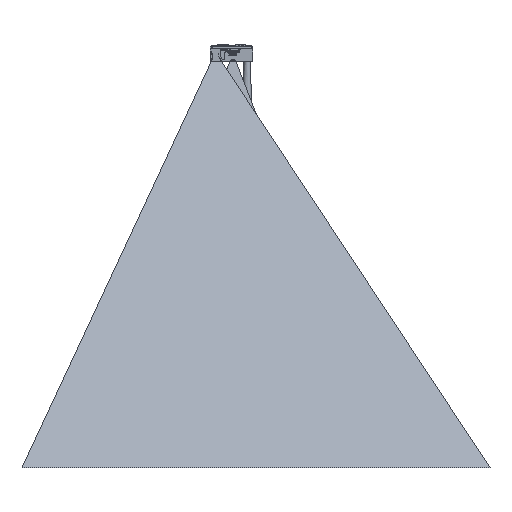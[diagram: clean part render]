
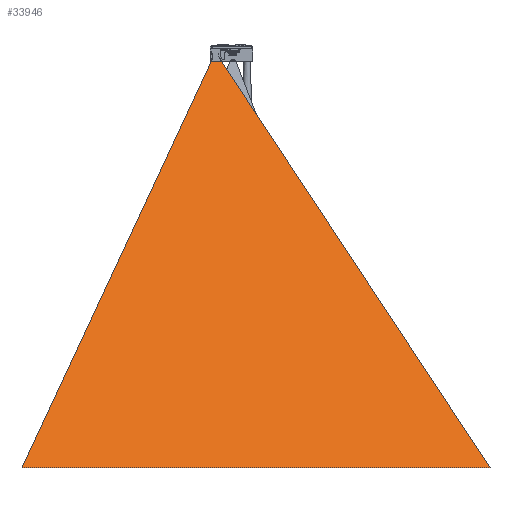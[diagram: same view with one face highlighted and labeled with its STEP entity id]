
A CAD part, front view. The second image highlights one B-rep face of the part: STEP entity #33946.
In plain terms, the highlighted planar face has unit normal (0, -0.828, 0.561).
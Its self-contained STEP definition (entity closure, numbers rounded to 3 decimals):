
#33828=DIRECTION('',(-1.,0.,0.));
#33829=VECTOR('',#33828,5.05);
#33830=CARTESIAN_POINT('',(-5.6,-2.8,0.));
#33831=LINE('',#33830,#33829);
#33852=DIRECTION('',(-1.,0.,0.));
#33853=VECTOR('',#33852,230.474);
#33854=CARTESIAN_POINT('',(126.603,-138.393,-200.));
#33855=LINE('',#33854,#33853);
#33856=DIRECTION('',(0.36,0.524,0.772));
#33857=VECTOR('',#33856,258.989);
#33858=CARTESIAN_POINT('',(-103.87,-138.393,-200.));
#33859=LINE('',#33858,#33857);
#33868=DIRECTION('',(-0.48,0.492,0.726));
#33869=VECTOR('',#33868,275.433);
#33870=CARTESIAN_POINT('',(126.603,-138.393,-200.));
#33871=LINE('',#33870,#33869);
#33876=CARTESIAN_POINT('',(-103.87,-138.393,-200.));
#33877=VERTEX_POINT('',#33876);
#33878=CARTESIAN_POINT('',(126.603,-138.393,-200.));
#33879=VERTEX_POINT('',#33878);
#33884=CARTESIAN_POINT('',(-5.6,-2.8,0.));
#33885=VERTEX_POINT('',#33884);
#33886=CARTESIAN_POINT('',(-10.65,-2.8,0.));
#33887=VERTEX_POINT('',#33886);
#33933=CARTESIAN_POINT('',(-312.2,-2.8,0.));
#33934=DIRECTION('',(0.,-0.828,0.561));
#33935=DIRECTION('',(0.,-0.561,-0.828));
#33936=AXIS2_PLACEMENT_3D('',#33933,#33934,#33935);
#33937=PLANE('',#33936);
#33938=ORIENTED_EDGE('',*,*,#33897,.F.);
#33940=ORIENTED_EDGE('',*,*,#33939,.F.);
#33942=ORIENTED_EDGE('',*,*,#33941,.T.);
#33943=ORIENTED_EDGE('',*,*,#33926,.T.);
#33944=EDGE_LOOP('',(#33938,#33940,#33942,#33943));
#33945=FACE_OUTER_BOUND('',#33944,.F.);
#33897=EDGE_CURVE('',#33885,#33887,#33831,.T.);
#33926=EDGE_CURVE('',#33877,#33887,#33859,.T.);
#33939=EDGE_CURVE('',#33879,#33885,#33871,.T.);
#33941=EDGE_CURVE('',#33879,#33877,#33855,.T.);
#33946=ADVANCED_FACE('',(#33945),#33937,.T.);
